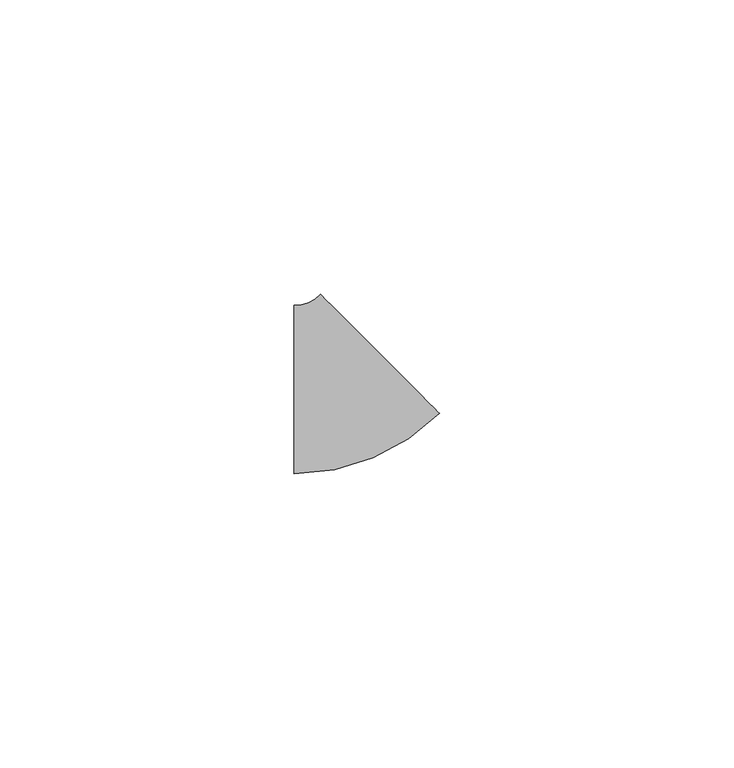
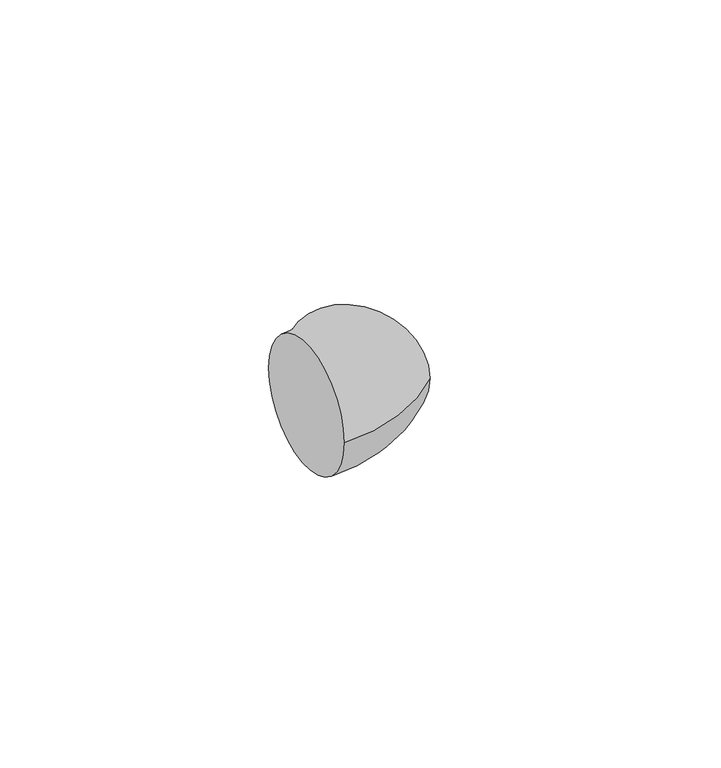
"""IFC4 building model written with IfcOpenShell, lengths in millimetres: pipe fitting geometry, M_Codo - Genérico : Estándar."""

from ifc_helpers import new_model, si_unit, point, frame, origin, place, context, project, spatial, circle_curve, ellipse_curve, trimmed, source, transform, mapped, element, save
from ifc_brep_helpers import plane_surface, revolved_surface, advanced_brep


def pipe_fitting_2e86e572(model_context):
    return source(origin(), model_context, "Body", "AdvancedBrep", [
        advanced_brep(
        [(-8.5483325, -14.2875, 0.0), (-8.5483325, 14.2875, 0.0), (16.1473721, -4.058204, 0.0), (-4.0582044, 16.147372, 0.0)],
        [
            (0, 1, circle_curve(frame((-8.5483325, 0.0, 0.0), z_axis=(-1.0, 0.0, 0.0), x_axis=(0.0, 1.0, 0.0)), 14.2875)),
            (1, 0, circle_curve(frame((-8.5483325, 0.0, 0.0), z_axis=(-1.0, 0.0, 0.0), x_axis=(0.0, 1.0, 0.0)), 14.2875)),
            (2, 3, circle_curve(frame((6.0445838, 6.044584, 0.0), z_axis=(0.7071067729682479, 0.7071067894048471, 0.0), x_axis=(-0.7071067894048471, 0.7071067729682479, 0.0)), 14.2875)),
            (3, 2, circle_curve(frame((6.0445838, 6.044584, 0.0), z_axis=(0.7071067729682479, 0.7071067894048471, 0.0), x_axis=(-0.7071067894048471, 0.7071067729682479, 0.0)), 14.2875)),
            (3, 1, circle_curve(frame((-8.5483325, 20.6375, 0.0), z_axis=(0.0, 0.0, -1.0), x_axis=(0.0, -1.0, 0.0)), 6.35)),
            (0, 2, circle_curve(frame((-8.5483325, 20.6375, 0.0), z_axis=(0.0, 0.0, 1.0), x_axis=(0.0, -1.0, 0.0)), 34.925)),
        ],
        [
            plane_surface(frame((-8.5483325, 0.0, 0.0), z_axis=(-1.0, 0.0, 0.0), x_axis=(0.0, 0.0, 1.0))),
            plane_surface(frame((6.0445838, 6.044584, 0.0), z_axis=(0.7071067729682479, 0.7071067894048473, 0.0), x_axis=(0.0, 0.0, 1.0))),
            revolved_surface(trimmed(ellipse_curve(frame((-8.5483325, 0.0, 0.0), z_axis=(-1.0, 0.0, 0.0), x_axis=(0.0, 1.0, 0.0)), 14.2875, 14.2875), [point((-8.5483325, -14.2875, 0.0))], [point((-8.5483325, 14.2875, 0.0))], True, "CARTESIAN"), (-8.5483325, 20.6375, 0.0), (0.0, 0.0, 1.0)),
            revolved_surface(trimmed(ellipse_curve(frame((-8.5483325, 0.0, 0.0), z_axis=(-1.0, 0.0, 0.0), x_axis=(0.0, 1.0, 0.0)), 14.2875, 14.2875), [point((-8.5483325, 14.2875, 0.0))], [point((-8.5483325, -14.2875, 0.0))], True, "CARTESIAN"), (-8.5483325, 20.6375, 0.0), (0.0, 0.0, 1.0)),
        ],
        [
            (0, [[1, 2]]),
            (1, [[3, 4]]),
            (2, [[5, -1, 6, -4]]),
            (3, [[-6, -2, -5, -3]]),
        ],
    ),
    ])


if __name__ == "__main__":
    model = new_model("IFC4")
    model_context = context("Model", 3, world=origin())
    ifc_project = project(units=[si_unit("LENGTHUNIT", "METRE", prefix="MILLI")], contexts=[model_context])
    site = spatial("IfcSite", under=ifc_project)
    building = spatial("IfcBuilding", under=site)
    placement = place(None, origin())
    pipe_fitting_shape = pipe_fitting_2e86e572(model_context)
    element("IfcPipeFitting", 1, ObjectType="M_Codo - Genérico : Estándar", at=placement, inside=building, context=model_context, shape_type="MappedRepresentation", body=[
        mapped(pipe_fitting_shape, transform((0.0, 0.0, 0.0), x_axis=(1.0, 0.0, 0.0), y_axis=(0.0, 1.0, 0.0), z_axis=(0.0, 0.0, 1.0))),
    ])
    save(model, "model.ifc")
